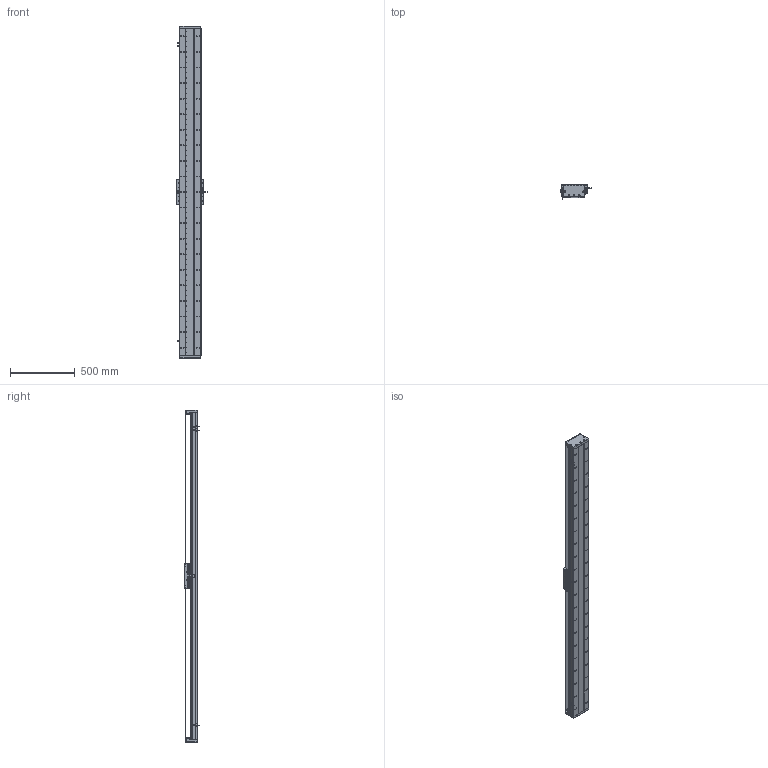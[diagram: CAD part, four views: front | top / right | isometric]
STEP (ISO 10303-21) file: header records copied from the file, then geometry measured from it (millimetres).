
FILE_DESCRIPTION (( 'STEP AP203' ), '1' );
FILE_NAME ('DA-C165-C2-T2280-C010-0.2 直线电机.STEP', '2023-05-11T07:46:53', ( '微软用户' ), ( '微软中国' ), 'SwSTEP 2.0', 'SolidWorks 2019', '' );
FILE_SCHEMA (( 'CONFIG_CONTROL_DESIGN' ));
Length unit declared in the file: millimetre
Products named in the file (18): 葩璃 PM-T45^DA-C165-C2-T-C010-0.2-N 眻盄萇儂; 复件 DA165-GDYK-00 钢带压块^复件 CU165钢带组件_DA-C165-C2-T-C010-0.2-N 直线电机; 复件 DA95-HXJ-00 缓冲橡胶^DA-C165-C2-T-C010-0.2-N 直线电机; 复件 DMA-010-0.2 读数头^DA-C165-C2-T-C010-0.2-N 直线电机; 复件 DA165-GYP-00 光电感应片^DA-C165-C2-T-C010-0.2-N 直线电机; 复件 六角薄螺母 M3^DA-C165-C2-T-C010-0.2-N 直线电机_GB_FASTENER_NUT_STNAB M3-C; 珨极趙賑雄怢啣wf-C2; 复件 DA165-GDLK-00 钢带拉块^复件 CU165钢带组件_DA-C165-C2-T-C010-0.2-N 直线电机; 葩璃 DA95-GT-T-00^IU-CU165-L 菁釱絳寢_T; 葩璃 CKM01-W075-TRL^DA-C165-C2-T-C010-0.2-N 眻盄萇儂; DA-C165-C2-T2280-C010-0.2 眻盄萇儂; 复件 XD-U-02L 磁栅尺^DA-C165-C2-T-C010-0.2-N 直线电机_T; 复件 CKM02-W075-C1C2-TP-3.0 一体电机-C2^DA-C165-C2-T-C010-0.2-N 直线电机; 复件 CU165钢带组件^DA-C165-C2-T-C010-0.2-N 直线电机; IU-CU165-L 菁釱絳寢; 复件 DA165-GD-1860-002-00 钢带盖板^复件 CU165钢带组件_DA-C165-C2-T-C010-0.2-N 直线电机; 复件 DA165-GD-DG-H-00 端盖^复件 CU165钢带组件_DA-C165-C2-T-C010-0.2-N 直线电机; IU-CU165-L-00 菁釱_L2520
Assembly tree (33 placements, depth 3):
  DA-C165-C2-T2280-C010-0.2 眻盄萇儂
    IU-CU165-L 菁釱絳寢
      IU-CU165-L-00 菁釱_L2520
      葩璃 DA95-GT-T-00^IU-CU165-L 菁釱絳寢_T  x4
    复件 XD-U-02L 磁栅尺^DA-C165-C2-T-C010-0.2-N 直线电机_T
    葩璃 PM-T45^DA-C165-C2-T-C010-0.2-N 眻盄萇儂  x3
    葩璃 CKM01-W075-TRL^DA-C165-C2-T-C010-0.2-N 眻盄萇儂
    复件 CU165钢带组件^DA-C165-C2-T-C010-0.2-N 直线电机
      复件 DA165-GD-DG-H-00 端盖^复件 CU165钢带组件_DA-C165-C2-T-C010-0.2-N 直线电机  x2
      复件 DA165-GDYK-00 钢带压块^复件 CU165钢带组件_DA-C165-C2-T-C010-0.2-N 直线电机  x2
      复件 DA165-GD-1860-002-00 钢带盖板^复件 CU165钢带组件_DA-C165-C2-T-C010-0.2-N 直线电机
      复件 DA165-GDLK-00 钢带拉块^复件 CU165钢带组件_DA-C165-C2-T-C010-0.2-N 直线电机  x2
    复件 DA95-HXJ-00 缓冲橡胶^DA-C165-C2-T-C010-0.2-N 直线电机  x4
    复件 DA165-GYP-00 光电感应片^DA-C165-C2-T-C010-0.2-N 直线电机
    复件 DMA-010-0.2 读数头^DA-C165-C2-T-C010-0.2-N 直线电机
    复件 CKM02-W075-C1C2-TP-3.0 一体电机-C2^DA-C165-C2-T-C010-0.2-N 直线电机
    复件 六角薄螺母 M3^DA-C165-C2-T-C010-0.2-N 直线电机_GB_FASTENER_NUT_STNAB M3-C  x6
    珨极趙賑雄怢啣wf-C2
Bounding box: 233 x 111.45 x 2560 mm (x, y, z)
Volume: 14294087.8 mm3; surface area: 4296543.2 mm2
Topology: 70 solids, 70 shells, 3847 faces, 11263 edges, 7191 vertices
Faces by surface type: cylinder 2269, plane 1098, cone 430, torus 46, sphere 4
Entity records: 129193 total; most frequent: CARTESIAN_POINT 34785, ORIENTED_EDGE 19698, DIRECTION 18997, EDGE_CURVE 9849, AXIS2_PLACEMENT_3D 7259, VERTEX_POINT 6427, EDGE_LOOP 4508, VECTOR 4479
